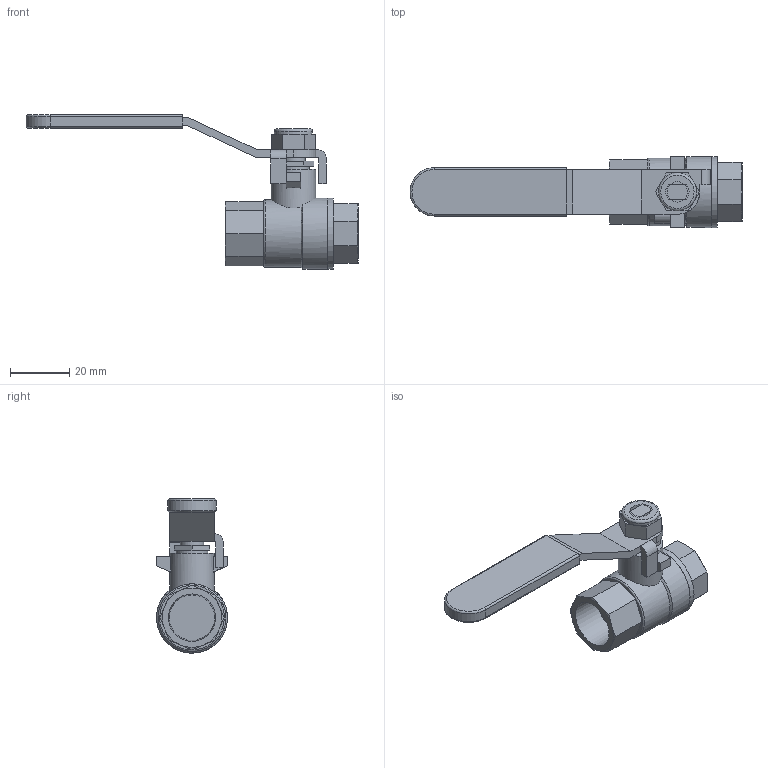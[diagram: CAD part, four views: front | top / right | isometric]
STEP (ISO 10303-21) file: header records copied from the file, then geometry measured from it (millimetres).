
FILE_DESCRIPTION((' '),'2;1');
FILE_NAME('N:\Technical Support\Private\Jomar Valve CAD\Ball Valves\Brass\.375 JF-100T (100-102)FusionCopy.stp.step','2016-04-27T16:42:29',(' '),(' '),' ','ACIS',' ');
FILE_SCHEMA(('CONFIG_CONTROL_DESIGN'));
Length unit declared in the file: inch
Products named in the file (8): N:\Technical Support\Private\Jomar Valve CAD\Ball Valves\Brass\.375 JF-100T (100-102)FusionCopy.stp.step; Body1; Body2; Body3; Body4; Body5; Body6; Body7
Assembly tree (7 placements, depth 2):
  N:\Technical Support\Private\Jomar Valve CAD\Ball Valves\Brass\.375 JF-100T (100-102)FusionCopy.stp.step
    Body1
    Body2
    Body3
    Body4
    Body5
    Body6
    Body7
Bounding box: 111.63 x 23.88 x 51.87 mm (x, y, z)
Volume: 24055.7 mm3; surface area: 13487 mm2
Topology: 7 solids, 7 shells, 136 faces, 317 edges, 202 vertices
Faces by surface type: plane 84, cylinder 22, cone 19, bspline 7, torus 4
Full cylindrical faces by diameter (mm): 6.858 x1, 7.874 x1, 8.509 x1, 10.668 x1, 12.751 x1, 14.986 x1, 22.733 x1, 23.876 x2
Entity records: 4916 total; most frequent: CARTESIAN_POINT 845, DIRECTION 627, ORIENTED_EDGE 590, EDGE_CURVE 295, AXIS2_PLACEMENT_3D 225, VERTEX_POINT 194, VECTOR 177, LINE 177
